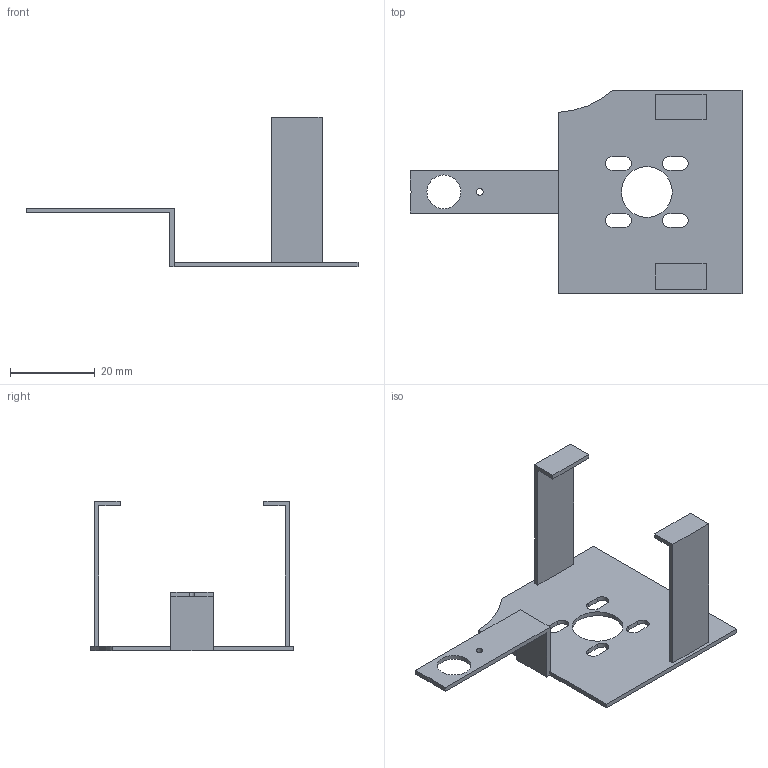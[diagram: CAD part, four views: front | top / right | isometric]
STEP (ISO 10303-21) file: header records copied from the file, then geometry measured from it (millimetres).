
FILE_DESCRIPTION(('Open CASCADE Model'),'2;1');
FILE_NAME('Open CASCADE Shape Model','2026-11-01T16:34:15',('Author'),( 'Open CASCADE'),'Open CASCADE STEP processor 8.0','build123d', 'Unknown');
FILE_SCHEMA(('AUTOMOTIVE_DESIGN { 1 0 10303 214 1 1 1 1 }'));
Length unit declared in the file: millimetre
Products named in the file (1): SOLID
Bounding box: 78.5 x 48 x 35.4 mm (x, y, z)
Volume: 3564.3 mm3; surface area: 7080.4 mm2
Topology: 1 solids, 1 shells, 50 faces, 138 edges, 92 vertices
Faces by surface type: plane 37, cylinder 13
Full cylindrical faces by diameter (mm): 1.6 x1, 8 x1, 12 x1
Entity records: 3359 total; most frequent: CARTESIAN_POINT 627, DIRECTION 477, LINE 298, VECTOR 298, ORIENTED_EDGE 276, PCURVE 276, DEFINITIONAL_REPRESENTATION 276, EDGE_CURVE 138
